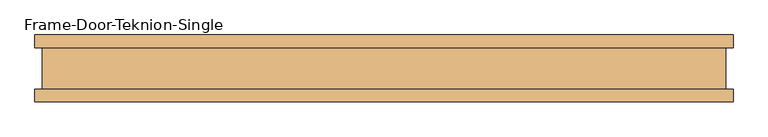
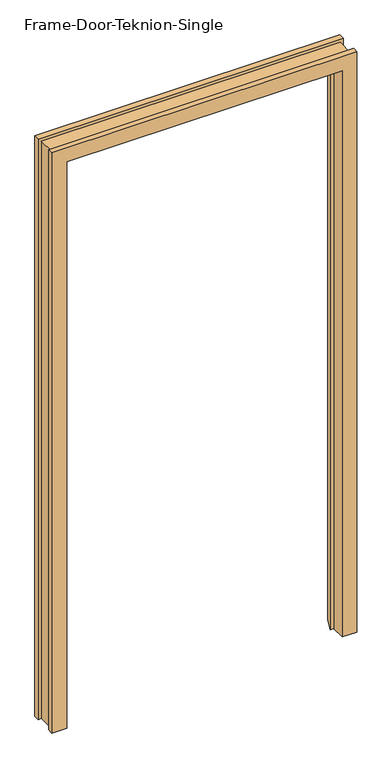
"""IFC4 building model written with IfcOpenShell, lengths in millimetres: door geometry, Frame-Door-Teknion-Single : FPFHS."""

from ifc_helpers import new_model, si_unit, origin, place, context, project, spatial, faceted_brep, source, transform, mapped, element, save


def frame_door_teknion_single_22a6114e(model_context):
    return source(origin(), model_context, "Body", "Brep", [
        faceted_brep([(-478.9807565, -50.8, 0.0), (-530.4157565, -50.8, 0.0), (-530.4157565, -31.5339997, 0.0), (-519.4101562, -31.5339997, 0.0), (-519.4101562, 31.5339997, 0.0), (-530.4157565, 31.5339997, 0.0), (-530.4157565, 50.8, 0.0), (-488.5054518, 50.8, 0.0), (-466.0583342, -0.7133435, 0.0), (-478.9807565, -0.7133435, 0.0), (-478.9807565, -0.7133435, 2082.165), (-478.9807565, -50.8, 2082.165), (-466.0583342, -0.7133435, 2069.2425776), (466.0583342, -0.7133435, 2069.2425776), (466.0583342, -0.7133435, 0.0), (478.9807565, -0.7133435, 0.0), (478.9807565, -0.7133435, 2082.165), (-488.5054518, 50.8, 2091.6896953), (-530.4157565, 50.8, 2133.6), (530.4157565, 50.8, 2133.6), (530.4157565, 50.8, 0.0), (488.5054518, 50.8, 0.0), (488.5054518, 50.8, 2091.6896953), (-530.4157565, 31.5339997, 2133.6), (-519.4101562, 31.5339997, 2122.5943997), (519.4101563, 31.5339997, 2122.5943997), (519.4101563, 31.5339997, 0.0), (530.4157565, 31.5339997, 0.0), (530.4157565, 31.5339997, 2133.6), (-519.4101562, -31.5339997, 2122.5943997), (-530.4157565, -31.5339997, 2133.6), (530.4157565, -31.5339997, 2133.6), (530.4157565, -31.5339997, 0.0), (519.4101563, -31.5339997, 0.0), (519.4101563, -31.5339997, 2122.5943997), (-530.4157565, -50.8, 2133.6), (478.9807565, -50.8, 2082.165), (478.9807565, -50.8, 0.0), (530.4157565, -50.8, 0.0), (530.4157565, -50.8, 2133.6)], [[[0, 1, 2, 3, 4, 5, 6, 7, 8, 9]], [[9, 10, 11, 0]], [[8, 12, 13, 14, 15, 16, 10, 9]], [[7, 17, 12, 8]], [[6, 18, 19, 20, 21, 22, 17, 7]], [[5, 23, 18, 6]], [[4, 24, 25, 26, 27, 28, 23, 5]], [[3, 29, 24, 4]], [[2, 30, 31, 32, 33, 34, 29, 3]], [[1, 35, 30, 2]], [[0, 11, 36, 37, 38, 39, 35, 1]], [[37, 15, 14, 21, 20, 27, 26, 33, 32, 38]], [[16, 15, 37, 36]], [[22, 21, 14, 13]], [[28, 27, 20, 19]], [[34, 33, 26, 25]], [[39, 38, 32, 31]], [[10, 16, 36, 11]], [[17, 22, 13, 12]], [[23, 28, 19, 18]], [[29, 34, 25, 24]], [[35, 39, 31, 30]]]),
    ])


if __name__ == "__main__":
    model = new_model("IFC4")
    model_context = context("Model", 3, world=origin())
    ifc_project = project(units=[si_unit("LENGTHUNIT", "METRE", prefix="MILLI")], contexts=[model_context])
    site = spatial("IfcSite", under=ifc_project)
    building = spatial("IfcBuilding", under=site)
    placement = place(None, origin())
    frame_door_teknion_single_shape = frame_door_teknion_single_22a6114e(model_context)
    element("IfcDoor", 1, ObjectType="Frame-Door-Teknion-Single : FPFHS", at=placement, inside=building, context=model_context, shape_type="MappedRepresentation", body=[
        mapped(frame_door_teknion_single_shape, transform((0.0, 0.0, 0.0), x_axis=(1.0, 0.0, 0.0), y_axis=(0.0, 1.0, 0.0), z_axis=(0.0, 0.0, 1.0))),
    ])
    save(model, "model.ifc")
